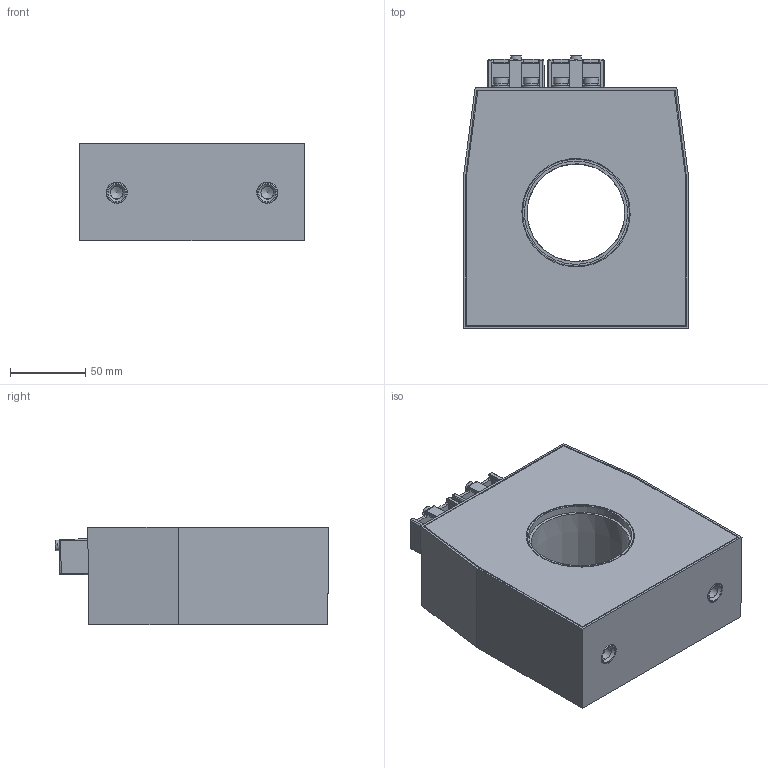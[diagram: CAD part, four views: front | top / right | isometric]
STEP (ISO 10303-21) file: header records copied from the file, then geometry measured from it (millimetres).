
FILE_DESCRIPTION(('STEP AP203'), '1');
FILE_NAME('ÒØÏ-ÍÒÇ-0,66-81À (65 ìì, 1-é ãàáàðèò)', '2025-08-27T09:44:15', ('UNSPECIFIED'), ('UNSPECIFIED'), 'ASCON STEP Converter 1.3', 'ASCON Math Kernel', '');
FILE_SCHEMA(('CONFIG_CONTROL_DESIGN'));
Length unit declared in the file: millimetre
Assembly tree (27 placements, depth 2):
  (unnamed)
    (unnamed)
    (unnamed)
    (unnamed)  x2
    (unnamed)
    (unnamed)  x4
    (unnamed)  x2
    (unnamed)  x4
    (unnamed)  x4
    (unnamed)  x4
    (unnamed)  x2
    (unnamed)  x2
Bounding box: 150 x 181.52 x 65 mm (x, y, z)
Volume: 346811.2 mm3; surface area: 209238.4 mm2
Topology: 27 solids, 27 shells, 400 faces, 883 edges, 545 vertices
Faces by surface type: plane 205, cylinder 110, cone 57, bspline 16, torus 12
Full cylindrical faces by diameter (mm): 3.244 x2, 4 x6, 4.5 x2, 4.8 x4, 4.92 x4, 6 x4, 6.4 x4, 7 x2, 7.1 x4, 8 x2, 8.376 x2, 10 x8, 10.1 x4, 12 x8, 14 x4, 17 x2, 65 x1, 65.05 x1, 68.599 x2, 68.6 x1, 71 x1
Entity records: 9216 total; most frequent: CARTESIAN_POINT 2131, DIRECTION 954, ORIENTED_EDGE 808, EDGE_CURVE 404, AXIS2_PLACEMENT_3D 360, EDGE_LOOP 299, VERTEX_POINT 289, LINE 234
